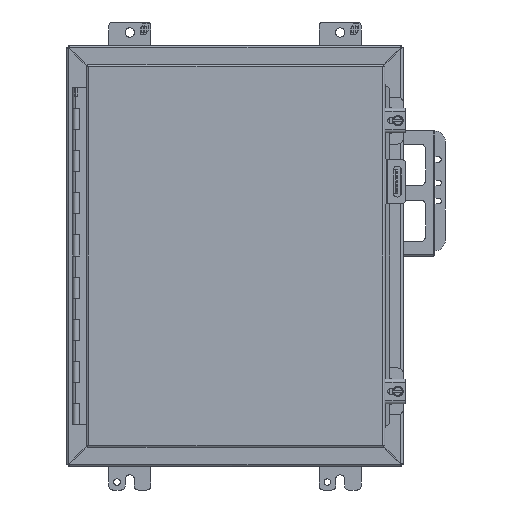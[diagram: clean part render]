
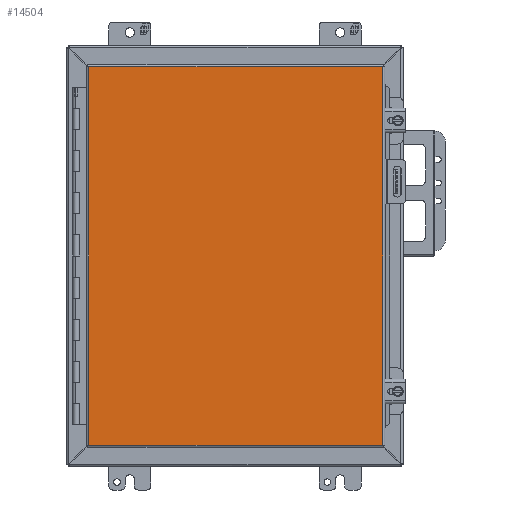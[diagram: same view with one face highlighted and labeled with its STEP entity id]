
A CAD part, front view. The second image highlights one B-rep face of the part: STEP entity #14504.
In plain terms, the highlighted planar face has unit normal (0, -1, 0).
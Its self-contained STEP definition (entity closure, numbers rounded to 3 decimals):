
#1108=LINE('',#21413,#2501);
#1109=LINE('',#21416,#2502);
#1110=LINE('',#21418,#2503);
#1111=LINE('',#21420,#2504);
#2501=VECTOR('',#17407,1000.);
#2502=VECTOR('',#17408,1000.);
#2503=VECTOR('',#17409,1000.);
#2504=VECTOR('',#17410,1000.);
#4936=ORIENTED_EDGE('',*,*,#8607,.T.);
#4937=ORIENTED_EDGE('',*,*,#8608,.T.);
#4938=ORIENTED_EDGE('',*,*,#8609,.T.);
#4939=ORIENTED_EDGE('',*,*,#8610,.T.);
#8607=EDGE_CURVE('',#10521,#10522,#1108,.T.);
#8608=EDGE_CURVE('',#10522,#10523,#1109,.T.);
#8609=EDGE_CURVE('',#10523,#10524,#1110,.T.);
#8610=EDGE_CURVE('',#10524,#10521,#1111,.T.);
#10521=VERTEX_POINT('',#21414);
#10522=VERTEX_POINT('',#21415);
#10523=VERTEX_POINT('',#21417);
#10524=VERTEX_POINT('',#21419);
#12126=EDGE_LOOP('',(#4936,#4937,#4938,#4939));
#13059=FACE_BOUND('',#12126,.T.);
#13905=PLANE('',#15563);
#14504=ADVANCED_FACE('',(#13059),#13905,.T.);
#15563=AXIS2_PLACEMENT_3D('',#21412,#17405,#17406);
#17405=DIRECTION('',(0.,-1.,0.));
#17406=DIRECTION('',(0.,0.,-1.));
#17407=DIRECTION('',(0.,0.,-1.));
#17408=DIRECTION('',(1.,0.,0.));
#17409=DIRECTION('',(0.,0.,1.));
#17410=DIRECTION('',(-1.,0.,0.));
#21412=CARTESIAN_POINT('',(-177.444,0.,-228.46));
#21413=CARTESIAN_POINT('',(-177.444,0.,228.46));
#21414=CARTESIAN_POINT('',(-177.444,0.,228.46));
#21415=CARTESIAN_POINT('',(-177.444,0.,-228.46));
#21416=CARTESIAN_POINT('',(-177.444,0.,-228.46));
#21417=CARTESIAN_POINT('',(177.444,0.,-228.46));
#21418=CARTESIAN_POINT('',(177.444,0.,-228.46));
#21419=CARTESIAN_POINT('',(177.444,0.,228.46));
#21420=CARTESIAN_POINT('',(177.444,0.,228.46));
